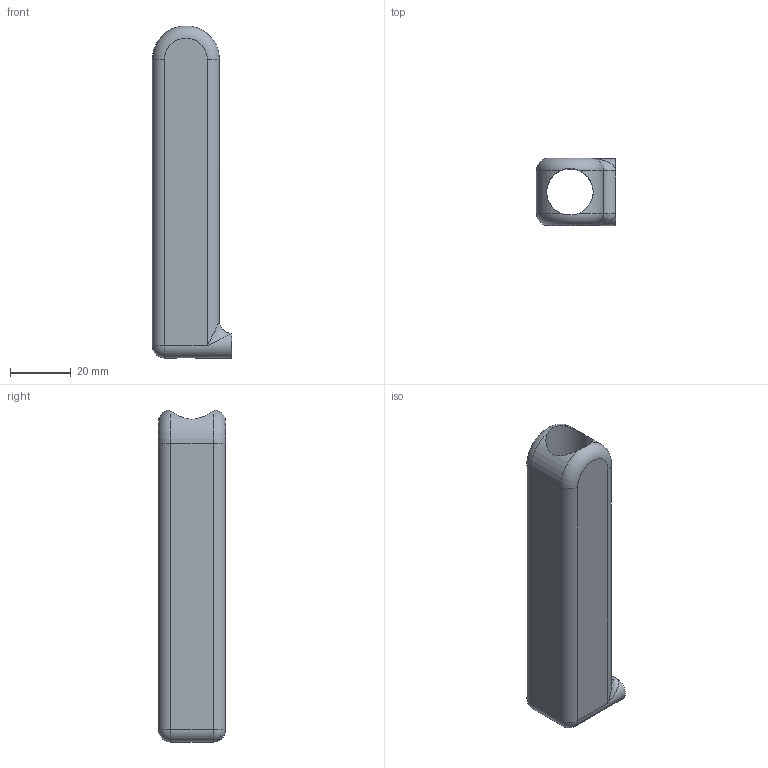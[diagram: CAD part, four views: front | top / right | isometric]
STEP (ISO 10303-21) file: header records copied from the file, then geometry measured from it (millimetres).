
FILE_DESCRIPTION(/* description */ (''),/* implementation_level */ '2;1');
FILE_NAME(/* name */ 'C:/Users/Owner/Desktop/K-CAD Songbird PM4 Centerfire/STEP/Barrels/Barrel Type 2/Barrel Type 2 .6 inch ID.step',/* time_stamp */ '2020-12-05T21:33:50-05:00',/* author */ (''),/* organization */ (''),/* preprocessor_version */ 'ST-DEVELOPER v18.1',/* originating_system */ 'Autodesk Translation Framework v9.3.0.1241',/* authorisation */ '');
FILE_SCHEMA (('AUTOMOTIVE_DESIGN { 1 0 10303 214 3 1 1 }'));
Length unit declared in the file: inch
Products named in the file (1): Barrel Type 2 .6 inch ID
Bounding box: 26 x 22 x 108.95 mm (x, y, z)
Volume: 30847.3 mm3; surface area: 14304 mm2
Topology: 1 solids, 1 shells, 25 faces, 64 edges, 36 vertices
Faces by surface type: cylinder 11, plane 8, torus 2, bspline 2, sphere 2
Full cylindrical faces by diameter (mm): 15.24 x1
Entity records: 915 total; most frequent: CARTESIAN_POINT 281, DIRECTION 131, ORIENTED_EDGE 122, EDGE_CURVE 61, AXIS2_PLACEMENT_3D 54, VERTEX_POINT 36, CIRCLE 26, FACE_OUTER_BOUND 25
